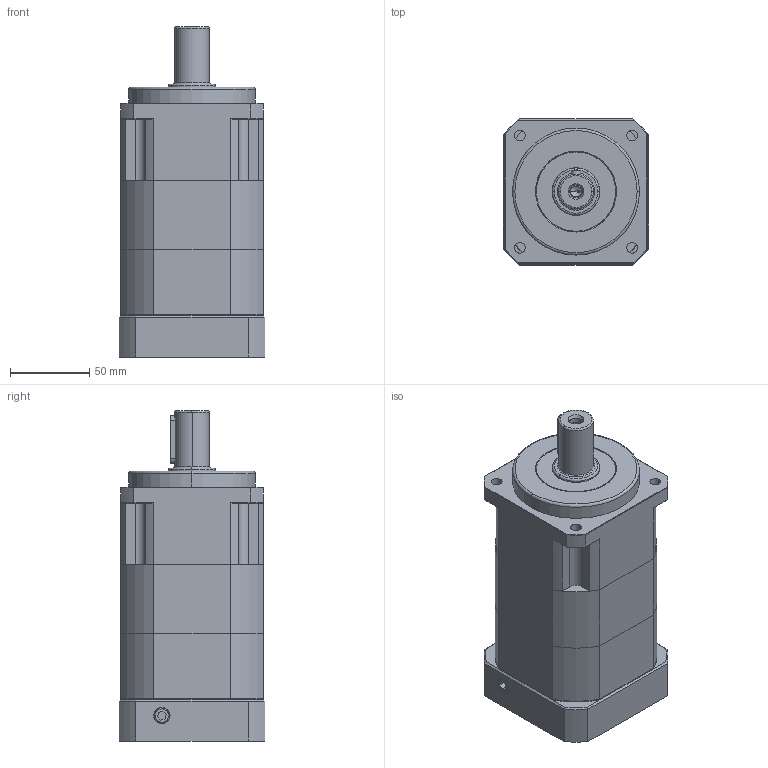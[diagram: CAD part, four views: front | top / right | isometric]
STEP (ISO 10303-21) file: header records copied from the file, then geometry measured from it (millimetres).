
FILE_DESCRIPTION (( 'STEP AP203' ), '1' );
FILE_NAME ('SB90A-2-50M4.STEP', '2011-07-12T01:14:39', ( '1' ), ( '' ), 'SwSTEP 2.0', 'SolidWorks 2011', '' );
FILE_SCHEMA (( 'CONFIG_CONTROL_DESIGN' ));
Length unit declared in the file: millimetre
Products named in the file (1): SB90A-2-50M4
Bounding box: 92 x 92 x 208 mm (x, y, z)
Volume: 1072604.8 mm3; surface area: 173374.8 mm2
Topology: 17 solids, 17 shells, 616 faces, 1456 edges, 900 vertices
Faces by surface type: plane 266, cylinder 201, cone 114, torus 26, bspline 9
Entity records: 18608 total; most frequent: CARTESIAN_POINT 4134, DIRECTION 3135, ORIENTED_EDGE 2860, EDGE_CURVE 1430, AXIS2_PLACEMENT_3D 1185, VERTEX_POINT 900, LINE 765, VECTOR 765
